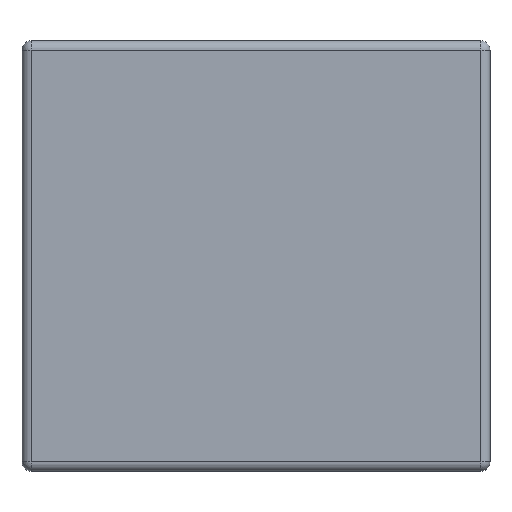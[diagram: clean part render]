
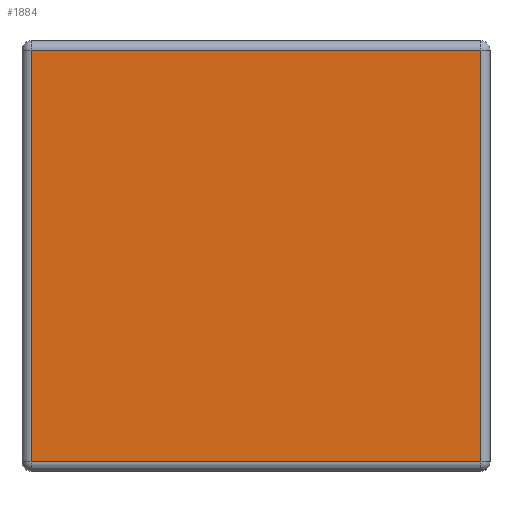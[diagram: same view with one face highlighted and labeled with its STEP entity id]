
A CAD part, front view. The second image highlights one B-rep face of the part: STEP entity #1884.
In plain terms, the highlighted planar face has unit normal (0, -1, 0).
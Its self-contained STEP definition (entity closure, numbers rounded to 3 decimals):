
#212=DIRECTION('',(0.,0.,1.));
#213=VECTOR('',#212,22.);
#214=CARTESIAN_POINT('',(-12.,0.,-11.));
#215=LINE('',#214,#213);
#825=DIRECTION('',(-1.,0.,0.));
#826=VECTOR('',#825,24.);
#827=CARTESIAN_POINT('',(12.,0.,-11.));
#828=LINE('',#827,#826);
#839=DIRECTION('',(0.,0.,-1.));
#840=VECTOR('',#839,22.);
#841=CARTESIAN_POINT('',(12.,0.,11.));
#842=LINE('',#841,#840);
#922=DIRECTION('',(1.,0.,0.));
#923=VECTOR('',#922,24.);
#924=CARTESIAN_POINT('',(-12.,0.,11.));
#925=LINE('',#924,#923);
#1001=CARTESIAN_POINT('',(-12.,0.,11.));
#1002=CARTESIAN_POINT('',(12.,0.,11.));
#1003=VERTEX_POINT('',#1001);
#1004=VERTEX_POINT('',#1002);
#1073=CARTESIAN_POINT('',(12.,0.,-11.));
#1074=VERTEX_POINT('',#1073);
#1075=CARTESIAN_POINT('',(-12.,0.,-11.));
#1076=VERTEX_POINT('',#1075);
#1871=CARTESIAN_POINT('',(0.,0.,0.));
#1872=DIRECTION('',(0.,1.,0.));
#1873=DIRECTION('',(0.,0.,1.));
#1874=AXIS2_PLACEMENT_3D('',#1871,#1872,#1873);
#1875=PLANE('',#1874);
#1877=ORIENTED_EDGE('',*,*,#1876,.T.);
#1878=ORIENTED_EDGE('',*,*,#1863,.T.);
#1879=ORIENTED_EDGE('',*,*,#1321,.T.);
#1881=ORIENTED_EDGE('',*,*,#1880,.T.);
#1882=EDGE_LOOP('',(#1877,#1878,#1879,#1881));
#1883=FACE_OUTER_BOUND('',#1882,.F.);
#1884=ADVANCED_FACE('',(#1883),#1875,.F.);
#1321=EDGE_CURVE('',#1076,#1003,#215,.T.);
#1863=EDGE_CURVE('',#1074,#1076,#828,.T.);
#1876=EDGE_CURVE('',#1004,#1074,#842,.T.);
#1880=EDGE_CURVE('',#1003,#1004,#925,.T.);
